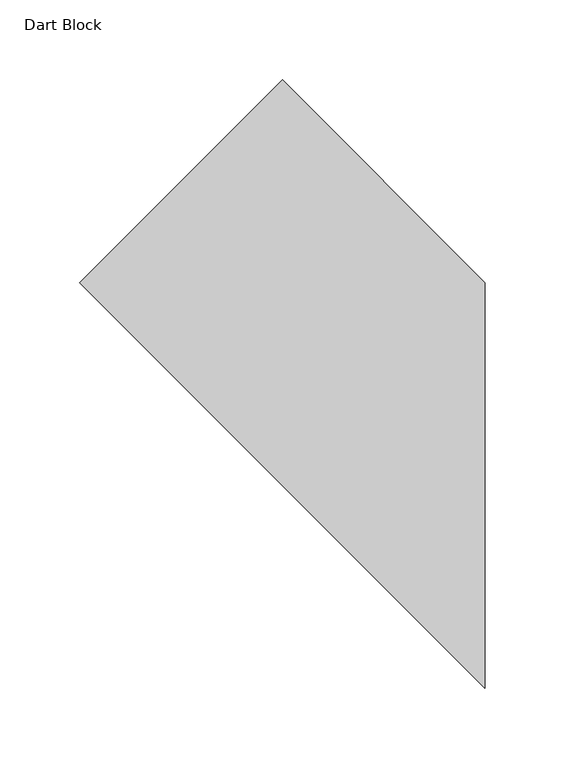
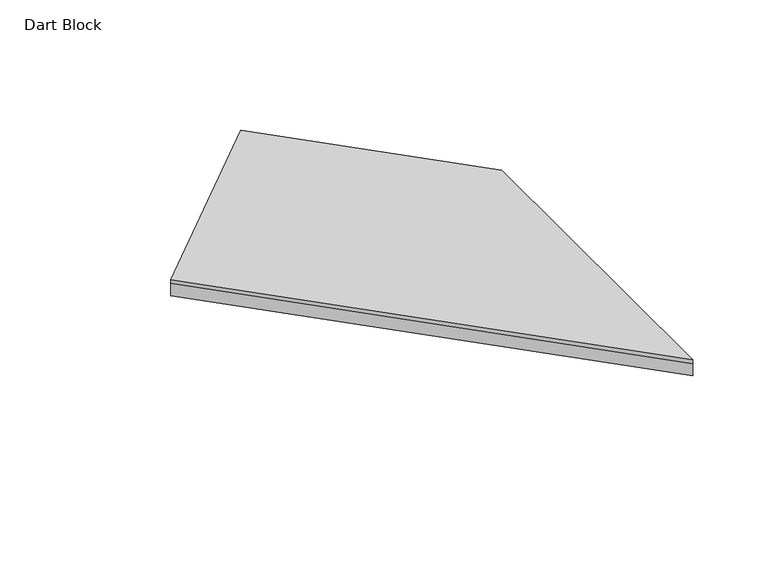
"""IFC4 building model written with IfcOpenShell, lengths in millimetres: proxy geometry, FilzFelt_Dart_Block : Dart Block."""

from ifc_helpers import new_model, si_unit, frame, origin, origin_with_axes, place, context, project, spatial, polyline, outline, extrude, source, transform, mapped, element, save


def dart_block_a07508b9(model_context):
    return source(origin(), model_context, "Body", "SweptSolid", [
        extrude(outline(polyline([(0.0, 190.5), (127.0, 63.5), (127.0, -190.5), (-127.0, 63.5), (0.0, 190.5)])), frame((0.0, 0.0, 10.0210937), z_axis=(0.0, 0.0, 1.0), x_axis=(1.0, 0.0, 0.0)), (0.0, 0.0, 1.0), 2.9765625),
        extrude(outline(polyline([(-127.0, 63.5), (0.0, 190.5), (127.0, 63.5), (127.0, -190.5), (-127.0, 63.5)])), origin_with_axes(), (0.0, 0.0, 1.0), 10.0210938),
    ])


if __name__ == "__main__":
    model = new_model("IFC4")
    model_context = context("Model", 3, world=origin())
    ifc_project = project(units=[si_unit("LENGTHUNIT", "METRE", prefix="MILLI")], contexts=[model_context])
    site = spatial("IfcSite", under=ifc_project)
    building = spatial("IfcBuilding", under=site)
    placement = place(None, origin())
    dart_block_shape = dart_block_a07508b9(model_context)
    element("IfcBuildingElementProxy", 1, Name="FilzFelt_Dart_Block : Dart Block", ObjectType="FilzFelt_Dart_Block : Dart Block", at=placement, inside=building, context=model_context, shape_type="MappedRepresentation", body=[
        mapped(dart_block_shape, transform((0.0, 0.0, 0.0), x_axis=(1.0, 0.0, 0.0), y_axis=(0.0, 1.0, 0.0), z_axis=(0.0, 0.0, 1.0))),
    ])
    save(model, "model.ifc")
